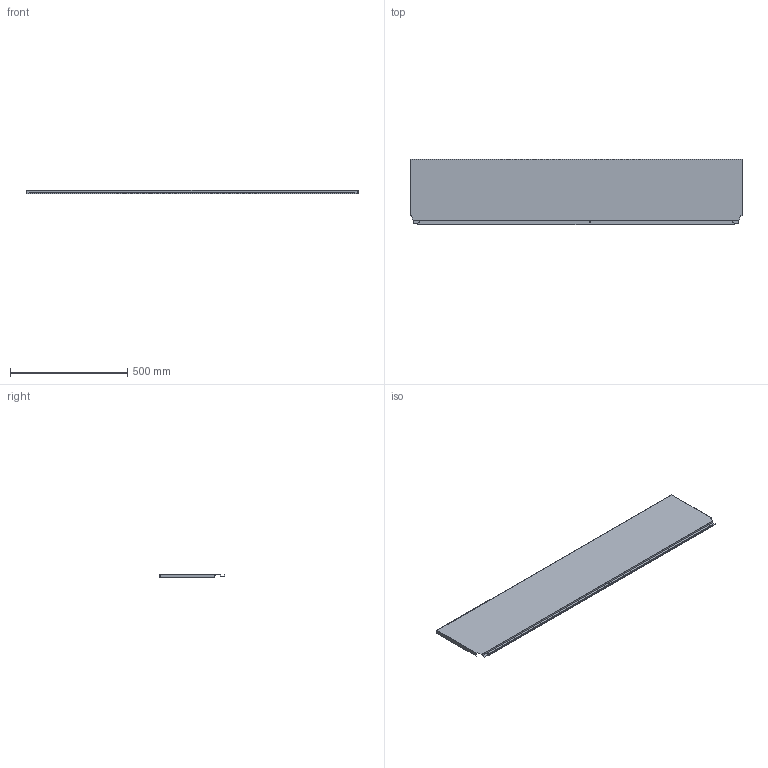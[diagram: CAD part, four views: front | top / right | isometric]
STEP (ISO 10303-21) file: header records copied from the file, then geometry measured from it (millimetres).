
FILE_DESCRIPTION (( 'STEP AP214' ), '1' );
FILE_NAME ('_DWD_XP Stahlrückwand_H278_KAB1500_S18.step', '2010-07-08T13:04:03', ( 'grass' ), ( '' ), 'SwSTEP 2.0', 'SolidWorks 2010', '' );
FILE_SCHEMA (( 'AUTOMOTIVE_DESIGN' ));
Length unit declared in the file: millimetre
Products named in the file (1): _DWD_XP Stahlrückwand_H278_KAB1500_S18
Bounding box: 1413 x 278.57 x 16 mm (x, y, z)
Volume: 388785.2 mm3; surface area: 886581.7 mm2
Topology: 1 solids, 1 shells, 46 faces, 132 edges, 88 vertices
Faces by surface type: plane 40, cylinder 6
Entity records: 1534 total; most frequent: CARTESIAN_POINT 267, ORIENTED_EDGE 264, DIRECTION 238, EDGE_CURVE 132, VECTOR 120, LINE 120, VERTEX_POINT 88, AXIS2_PLACEMENT_3D 59
